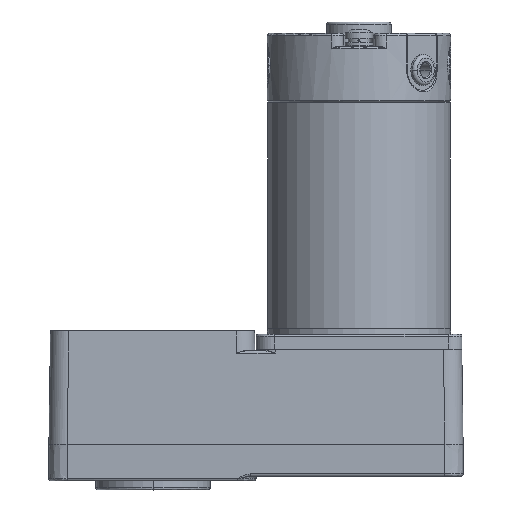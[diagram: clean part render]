
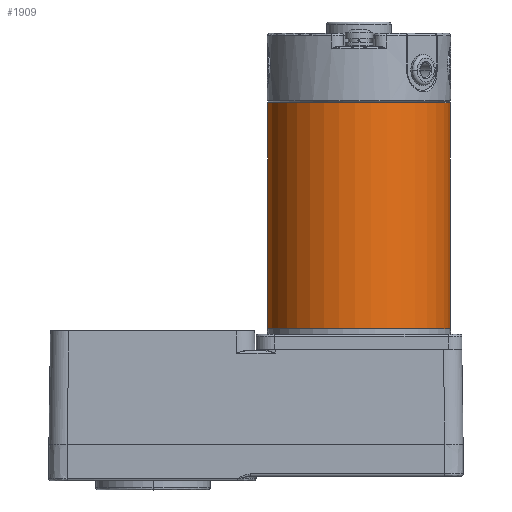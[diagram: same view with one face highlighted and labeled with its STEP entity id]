
A CAD part, left-side view. The second image highlights one B-rep face of the part: STEP entity #1909.
In plain terms, the highlighted cylindrical face has radius 40 mm (diameter 80 mm), a partial arc.
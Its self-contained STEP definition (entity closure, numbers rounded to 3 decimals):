
#446 = CARTESIAN_POINT ( 'NONE',  ( 40., 0.3, 0. ) ) ;
#1909 = ADVANCED_FACE ( 'NONE', ( #19938 ), #48229, .T. ) ;
#2925 = CIRCLE ( 'NONE', #70715, 40. ) ;
#4769 = CARTESIAN_POINT ( 'NONE',  ( 0., 0., -40. ) ) ;
#11528 = EDGE_CURVE ( 'NONE', #71617, #67033, #33058, .T. ) ;
#14042 = CIRCLE ( 'NONE', #64030, 40. ) ;
#14850 = VERTEX_POINT ( 'NONE', #446 ) ;
#15142 = DIRECTION ( 'NONE',  ( 0., 1., 0. ) ) ;
#16362 = AXIS2_PLACEMENT_3D ( 'NONE', #69903, #53131, #47554 ) ;
#16379 = DIRECTION ( 'NONE',  ( 0., 0., 1. ) ) ;
#18406 = ORIENTED_EDGE ( 'NONE', *, *, #11528, .T. ) ;
#18525 = ORIENTED_EDGE ( 'NONE', *, *, #32383, .F. ) ;
#19938 = FACE_OUTER_BOUND ( 'NONE', #31129, .T. ) ;
#21195 = EDGE_CURVE ( 'NONE', #22995, #26445, #26302, .T. ) ;
#22569 = CARTESIAN_POINT ( 'NONE',  ( 0., 99., -40. ) ) ;
#22694 = CARTESIAN_POINT ( 'NONE',  ( 0., 0.3, 0. ) ) ;
#22995 = VERTEX_POINT ( 'NONE', #73688 ) ;
#26302 = LINE ( 'NONE', #43423, #50991 ) ;
#26445 = VERTEX_POINT ( 'NONE', #38907 ) ;
#31129 = EDGE_LOOP ( 'NONE', ( #57079, #50668, #18406, #18525, #57716 ) ) ;
#32383 = EDGE_CURVE ( 'NONE', #26445, #67033, #14042, .T. ) ;
#33058 = LINE ( 'NONE', #4769, #69576 ) ;
#38907 = CARTESIAN_POINT ( 'NONE',  ( 0., 99., 40. ) ) ;
#42640 = DIRECTION ( 'NONE',  ( 0., 1., 0. ) ) ;
#43192 = CARTESIAN_POINT ( 'NONE',  ( 0., 99., 0. ) ) ;
#43337 = DIRECTION ( 'NONE',  ( 0., 0., 1. ) ) ;
#43423 = CARTESIAN_POINT ( 'NONE',  ( 0., 0., 40. ) ) ;
#47554 = DIRECTION ( 'NONE',  ( 0., 0., 1. ) ) ;
#48229 = CYLINDRICAL_SURFACE ( 'NONE', #59096, 40. ) ;
#50668 = ORIENTED_EDGE ( 'NONE', *, *, #61891, .T. ) ;
#50991 = VECTOR ( 'NONE', #15142, 1000. ) ;
#53131 = DIRECTION ( 'NONE',  ( 0., 1., 0. ) ) ;
#56173 = DIRECTION ( 'NONE',  ( 0., 1., 0. ) ) ;
#56211 = EDGE_CURVE ( 'NONE', #22995, #14850, #59208, .T. ) ;
#57079 = ORIENTED_EDGE ( 'NONE', *, *, #56211, .T. ) ;
#57716 = ORIENTED_EDGE ( 'NONE', *, *, #21195, .F. ) ;
#59096 = AXIS2_PLACEMENT_3D ( 'NONE', #70949, #42640, #43337 ) ;
#59208 = CIRCLE ( 'NONE', #16362, 40. ) ;
#59692 = CARTESIAN_POINT ( 'NONE',  ( 0., 0.3, -40. ) ) ;
#61891 = EDGE_CURVE ( 'NONE', #14850, #71617, #2925, .T. ) ;
#64030 = AXIS2_PLACEMENT_3D ( 'NONE', #43192, #70083, #65911 ) ;
#65911 = DIRECTION ( 'NONE',  ( 0., 0., 1. ) ) ;
#66989 = DIRECTION ( 'NONE',  ( 0., 1., 0. ) ) ;
#67033 = VERTEX_POINT ( 'NONE', #22569 ) ;
#69576 = VECTOR ( 'NONE', #56173, 1000. ) ;
#69903 = CARTESIAN_POINT ( 'NONE',  ( 0., 0.3, 0. ) ) ;
#70083 = DIRECTION ( 'NONE',  ( 0., 1., 0. ) ) ;
#70715 = AXIS2_PLACEMENT_3D ( 'NONE', #22694, #66989, #16379 ) ;
#70949 = CARTESIAN_POINT ( 'NONE',  ( 0., 0., 0. ) ) ;
#71617 = VERTEX_POINT ( 'NONE', #59692 ) ;
#73688 = CARTESIAN_POINT ( 'NONE',  ( 0., 0.3, 40. ) ) ;
